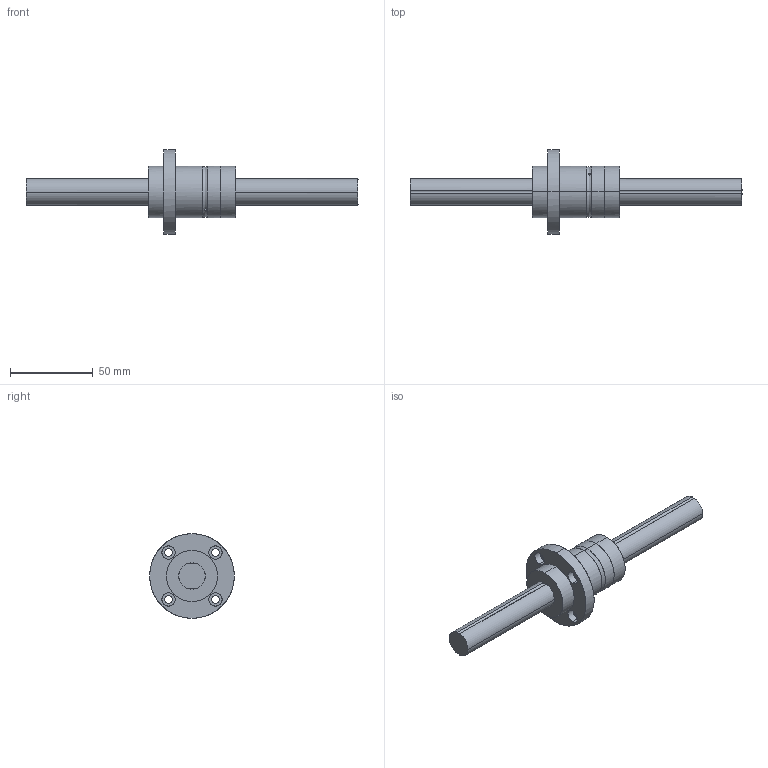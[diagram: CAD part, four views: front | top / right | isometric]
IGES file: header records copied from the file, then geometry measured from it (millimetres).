
Global section: file name: No Iges File Name specified; native system: AutoDesk Inventor R11.0; preprocessor: AutoDesk Inventor Iges Exporter R11.0; author: No Author specified; organization: No Organization specified; date: 20150223.133142; units: millimetre
Bounding box: 200 x 51 x 51 mm (x, y, z)
Surface area: 23080.7 mm2 (no closed solid volume)
Topology: 0 solids, 0 shells, 54 faces, 380 edges, 380 vertices
Faces by surface type: bspline 54
